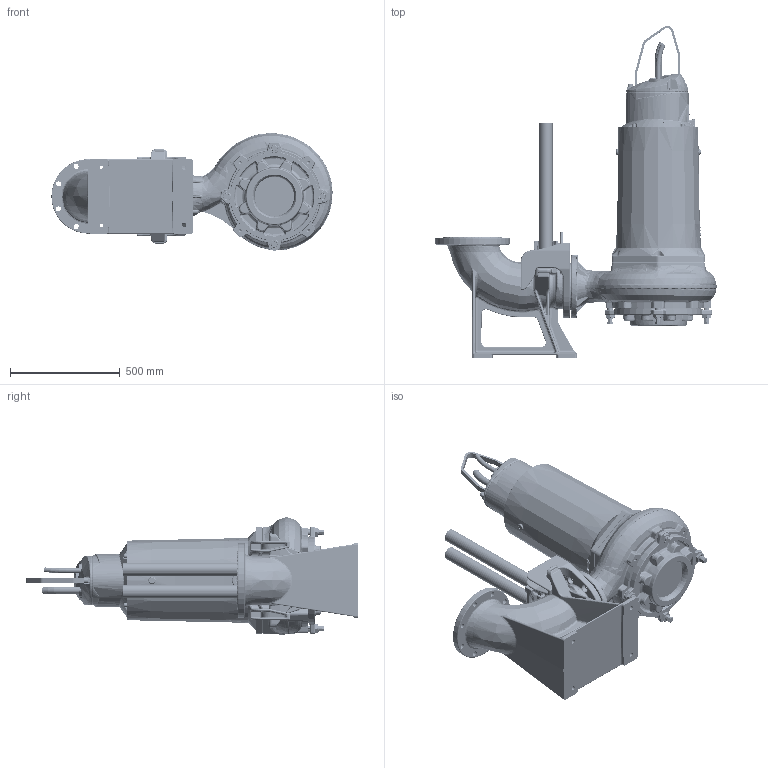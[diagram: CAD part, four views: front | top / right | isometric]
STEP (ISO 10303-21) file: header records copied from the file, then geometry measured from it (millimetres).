
FILE_DESCRIPTION (( 'STEP AP214' ), '1' );
FILE_NAME ('PE3_XFP155J-CB2_WET 2guide_NG2.STEP', '2021-02-24T16:56:06', ( '' ), ( '' ), 'SwSTEP 2.0', 'SolidWorks 2017', '' );
FILE_SCHEMA (( 'AUTOMOTIVE_DESIGN' ));
Length unit declared in the file: millimetre
Products named in the file (1): PE3_XFP155J-CB2_WET 2guide_NG2
Bounding box: 1282.59 x 1513.48 x 536.4 mm (x, y, z)
Volume: 168905167.2 mm3; surface area: 5735546.8 mm2
Topology: 62 solids, 62 shells, 5691 faces, 13721 edges, 8060 vertices
Faces by surface type: bspline 1652, cylinder 1543, plane 1337, torus 495, cone 457, sphere 207
Entity records: 334630 total; most frequent: CARTESIAN_POINT 152762, ORIENTED_EDGE 26834, DIRECTION 22311, EDGE_CURVE 13417, AXIS2_PLACEMENT_3D 8992, VERTEX_POINT 8052, EDGE_LOOP 6063, UNCERTAINTY_MEASURE_WITH_UNIT 5731
